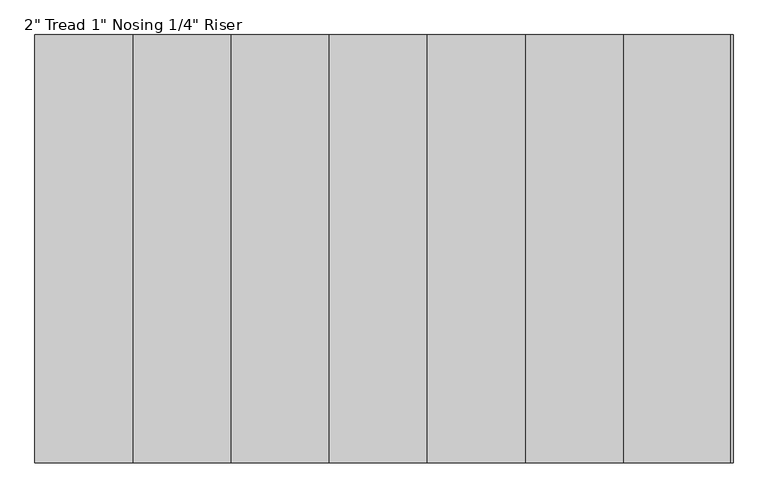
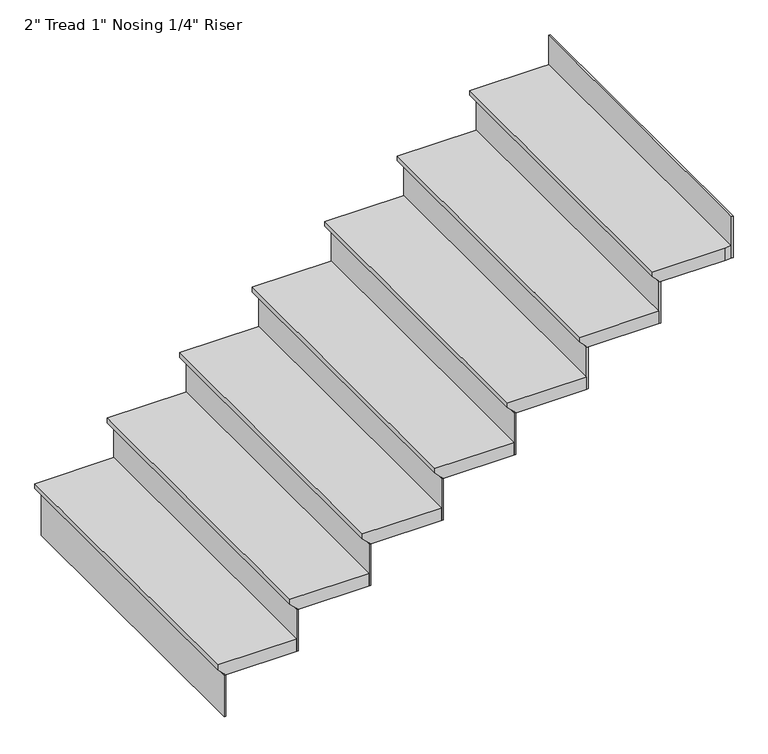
"""IFC4 building model written with IfcOpenShell, lengths in millimetres: stair flight geometry."""

from ifc_helpers import new_model, si_unit, origin, place, context, project, spatial, faceted_brep, source, transform, mapped, element, save


def stair_flight_7657f764(model_context):
    return source(origin(), model_context, "Body", "Brep", [
        faceted_brep([(-4066.817382, 5269.7483604, 996.95), (-4066.817382, 5269.7483604, 1016.0), (-4066.817382, 6488.9483604, 1016.0), (-4066.817382, 6488.9483604, 996.95), (-4041.417382, 5269.7483604, 971.55), (-4041.417382, 6488.9483604, 971.55), (-3762.017382, 5269.7483604, 1016.0), (-3762.017382, 6488.9483604, 1016.0), (-4041.417382, 6488.9483604, 965.2), (-3762.017382, 6488.9483604, 965.2), (-3762.017382, 5269.7483604, 965.2), (-4041.417382, 5269.7483604, 965.2)], [[[0, 1, 2, 3]], [[4, 0, 3, 5]], [[2, 1, 6, 7]], [[8, 9, 10, 11]], [[2, 7, 9, 8, 5, 3]], [[8, 11, 4, 5]], [[6, 1, 0, 4, 11, 10]], [[7, 6, 10, 9]]]),
        faceted_brep([(-4041.417382, 5269.7483604, 965.2), (-4041.417382, 5269.7483604, 795.8666667), (-4035.067382, 5269.7483604, 795.8666667), (-4035.067382, 5269.7483604, 965.2), (-4041.417382, 6488.9483604, 965.2), (-4035.067382, 6488.9483604, 965.2), (-4035.067382, 6488.9483604, 795.8666667), (-4041.417382, 6488.9483604, 795.8666667)], [[[0, 1, 2, 3]], [[4, 5, 6, 7]], [[1, 0, 4, 7]], [[2, 1, 7, 6]], [[3, 2, 6, 5]], [[0, 3, 5, 4]]]),
        faceted_brep([(-3762.017382, 5269.7483604, 1134.5333333), (-3762.017382, 5269.7483604, 965.2), (-3755.667382, 5269.7483604, 965.2), (-3755.667382, 5269.7483604, 1134.5333333), (-3762.017382, 6488.9483604, 1134.5333333), (-3755.667382, 6488.9483604, 1134.5333333), (-3755.667382, 6488.9483604, 965.2), (-3762.017382, 6488.9483604, 965.2)], [[[0, 1, 2, 3]], [[4, 5, 6, 7]], [[1, 0, 4, 7]], [[2, 1, 7, 6]], [[3, 2, 6, 5]], [[0, 3, 5, 4]]]),
        faceted_brep([(-3787.417382, 6488.9483604, 1185.3333333), (-3787.417382, 5269.7483604, 1185.3333333), (-3482.617382, 5269.7483604, 1185.3333333), (-3482.617382, 6488.9483604, 1185.3333333), (-3762.017382, 6488.9483604, 1134.5333333), (-3482.617382, 6488.9483604, 1134.5333333), (-3482.617382, 5269.7483604, 1134.5333333), (-3762.017382, 5269.7483604, 1134.5333333), (-3762.017382, 6488.9483604, 1140.8833333), (-3787.417382, 6488.9483604, 1166.2833333), (-3762.017382, 5269.7483604, 1140.8833333), (-3787.417382, 5269.7483604, 1166.2833333)], [[[0, 1, 2, 3]], [[4, 5, 6, 7]], [[0, 3, 5, 4, 8, 9]], [[4, 7, 10, 8]], [[2, 1, 11, 10, 7, 6]], [[3, 2, 6, 5]], [[11, 1, 0, 9]], [[10, 11, 9, 8]]]),
        faceted_brep([(-3482.617382, 5269.7483604, 1303.8666667), (-3482.617382, 5269.7483604, 1134.5333333), (-3476.267382, 5269.7483604, 1134.5333333), (-3476.267382, 5269.7483604, 1303.8666667), (-3482.617382, 6488.9483604, 1303.8666667), (-3476.267382, 6488.9483604, 1303.8666667), (-3476.267382, 6488.9483604, 1134.5333333), (-3482.617382, 6488.9483604, 1134.5333333)], [[[0, 1, 2, 3]], [[4, 5, 6, 7]], [[1, 0, 4, 7]], [[2, 1, 7, 6]], [[3, 2, 6, 5]], [[0, 3, 5, 4]]]),
        faceted_brep([(-3508.017382, 6488.9483604, 1354.6666667), (-3508.017382, 5269.7483604, 1354.6666667), (-3203.217382, 5269.7483604, 1354.6666667), (-3203.217382, 6488.9483604, 1354.6666667), (-3482.617382, 6488.9483604, 1303.8666667), (-3203.217382, 6488.9483604, 1303.8666667), (-3203.217382, 5269.7483604, 1303.8666667), (-3482.617382, 5269.7483604, 1303.8666667), (-3482.617382, 6488.9483604, 1310.2166667), (-3508.017382, 6488.9483604, 1335.6166667), (-3482.617382, 5269.7483604, 1310.2166667), (-3508.017382, 5269.7483604, 1335.6166667)], [[[0, 1, 2, 3]], [[4, 5, 6, 7]], [[0, 3, 5, 4, 8, 9]], [[4, 7, 10, 8]], [[2, 1, 11, 10, 7, 6]], [[3, 2, 6, 5]], [[11, 1, 0, 9]], [[10, 11, 9, 8]]]),
        faceted_brep([(-3203.217382, 5269.7483604, 1473.2), (-3203.217382, 5269.7483604, 1303.8666667), (-3196.867382, 5269.7483604, 1303.8666667), (-3196.867382, 5269.7483604, 1473.2), (-3203.217382, 6488.9483604, 1473.2), (-3196.867382, 6488.9483604, 1473.2), (-3196.867382, 6488.9483604, 1303.8666667), (-3203.217382, 6488.9483604, 1303.8666667)], [[[0, 1, 2, 3]], [[4, 5, 6, 7]], [[1, 0, 4, 7]], [[2, 1, 7, 6]], [[3, 2, 6, 5]], [[0, 3, 5, 4]]]),
        faceted_brep([(-3228.617382, 6488.9483604, 1524.0), (-3228.617382, 5269.7483604, 1524.0), (-2923.817382, 5269.7483604, 1524.0), (-2923.817382, 6488.9483604, 1524.0), (-3203.217382, 6488.9483604, 1473.2), (-2923.817382, 6488.9483604, 1473.2), (-2923.817382, 5269.7483604, 1473.2), (-3203.217382, 5269.7483604, 1473.2), (-3203.217382, 6488.9483604, 1479.55), (-3228.617382, 6488.9483604, 1504.95), (-3203.217382, 5269.7483604, 1479.55), (-3228.617382, 5269.7483604, 1504.95)], [[[0, 1, 2, 3]], [[4, 5, 6, 7]], [[0, 3, 5, 4, 8, 9]], [[4, 7, 10, 8]], [[2, 1, 11, 10, 7, 6]], [[3, 2, 6, 5]], [[11, 1, 0, 9]], [[10, 11, 9, 8]]]),
        faceted_brep([(-2923.817382, 5269.7483604, 1642.5333333), (-2923.817382, 5269.7483604, 1473.2), (-2917.467382, 5269.7483604, 1473.2), (-2917.467382, 5269.7483604, 1642.5333333), (-2923.817382, 6488.9483604, 1642.5333333), (-2917.467382, 6488.9483604, 1642.5333333), (-2917.467382, 6488.9483604, 1473.2), (-2923.817382, 6488.9483604, 1473.2)], [[[0, 1, 2, 3]], [[4, 5, 6, 7]], [[1, 0, 4, 7]], [[2, 1, 7, 6]], [[3, 2, 6, 5]], [[0, 3, 5, 4]]]),
        faceted_brep([(-2949.217382, 6488.9483604, 1693.3333333), (-2949.217382, 5269.7483604, 1693.3333333), (-2644.417382, 5269.7483604, 1693.3333333), (-2644.417382, 6488.9483604, 1693.3333333), (-2923.817382, 6488.9483604, 1642.5333333), (-2644.417382, 6488.9483604, 1642.5333333), (-2644.417382, 5269.7483604, 1642.5333333), (-2923.817382, 5269.7483604, 1642.5333333), (-2923.817382, 6488.9483604, 1648.8833333), (-2949.217382, 6488.9483604, 1674.2833333), (-2923.817382, 5269.7483604, 1648.8833333), (-2949.217382, 5269.7483604, 1674.2833333)], [[[0, 1, 2, 3]], [[4, 5, 6, 7]], [[0, 3, 5, 4, 8, 9]], [[4, 7, 10, 8]], [[2, 1, 11, 10, 7, 6]], [[3, 2, 6, 5]], [[11, 1, 0, 9]], [[10, 11, 9, 8]]]),
        faceted_brep([(-2644.417382, 5269.7483604, 1811.8666667), (-2644.417382, 5269.7483604, 1642.5333333), (-2638.067382, 5269.7483604, 1642.5333333), (-2638.067382, 5269.7483604, 1811.8666667), (-2644.417382, 6488.9483604, 1811.8666667), (-2638.067382, 6488.9483604, 1811.8666667), (-2638.067382, 6488.9483604, 1642.5333333), (-2644.417382, 6488.9483604, 1642.5333333)], [[[0, 1, 2, 3]], [[4, 5, 6, 7]], [[1, 0, 4, 7]], [[2, 1, 7, 6]], [[3, 2, 6, 5]], [[0, 3, 5, 4]]]),
        faceted_brep([(-2669.817382, 6488.9483604, 1862.6666667), (-2669.817382, 5269.7483604, 1862.6666667), (-2365.017382, 5269.7483604, 1862.6666667), (-2365.017382, 6488.9483604, 1862.6666667), (-2644.417382, 6488.9483604, 1811.8666667), (-2365.017382, 6488.9483604, 1811.8666667), (-2365.017382, 5269.7483604, 1811.8666667), (-2644.417382, 5269.7483604, 1811.8666667), (-2644.417382, 6488.9483604, 1818.2166667), (-2669.817382, 6488.9483604, 1843.6166667), (-2644.417382, 5269.7483604, 1818.2166667), (-2669.817382, 5269.7483604, 1843.6166667)], [[[0, 1, 2, 3]], [[4, 5, 6, 7]], [[0, 3, 5, 4, 8, 9]], [[4, 7, 10, 8]], [[2, 1, 11, 10, 7, 6]], [[3, 2, 6, 5]], [[11, 1, 0, 9]], [[10, 11, 9, 8]]]),
        faceted_brep([(-2085.617382, 5269.7483604, 2150.5333333), (-2085.617382, 5269.7483604, 1981.2), (-2079.267382, 5269.7483604, 1981.2), (-2079.267382, 5269.7483604, 2150.5333333), (-2085.617382, 6488.9483604, 2150.5333333), (-2079.267382, 6488.9483604, 2150.5333333), (-2079.267382, 6488.9483604, 1981.2), (-2085.617382, 6488.9483604, 1981.2)], [[[0, 1, 2, 3]], [[4, 5, 6, 7]], [[1, 0, 4, 7]], [[2, 1, 7, 6]], [[3, 2, 6, 5]], [[0, 3, 5, 4]]]),
        faceted_brep([(-2365.017382, 5269.7483604, 1981.2), (-2365.017382, 5269.7483604, 1811.8666667), (-2358.667382, 5269.7483604, 1811.8666667), (-2358.667382, 5269.7483604, 1981.2), (-2365.017382, 6488.9483604, 1981.2), (-2358.667382, 6488.9483604, 1981.2), (-2358.667382, 6488.9483604, 1811.8666667), (-2365.017382, 6488.9483604, 1811.8666667)], [[[0, 1, 2, 3]], [[4, 5, 6, 7]], [[1, 0, 4, 7]], [[2, 1, 7, 6]], [[3, 2, 6, 5]], [[0, 3, 5, 4]]]),
        faceted_brep([(-2085.617382, 6488.9483604, 2032.0), (-2111.017382, 6488.9483604, 2032.0), (-2390.417382, 6488.9483604, 2032.0), (-2390.417382, 5269.7483604, 2032.0), (-2111.017382, 5269.7483604, 2032.0), (-2085.617382, 5269.7483604, 2032.0), (-2111.017382, 6488.9483604, 1981.2), (-2085.617382, 6488.9483604, 1981.2), (-2085.617382, 5269.7483604, 1981.2), (-2111.017382, 5269.7483604, 1981.2), (-2365.017382, 5269.7483604, 1981.2), (-2365.017382, 6488.9483604, 1981.2), (-2365.017382, 6488.9483604, 1987.55), (-2390.417382, 6488.9483604, 2012.95), (-2365.017382, 5269.7483604, 1987.55), (-2390.417382, 5269.7483604, 2012.95)], [[[0, 1, 2, 3, 4, 5]], [[6, 7, 8, 9, 10, 11]], [[1, 0, 7, 6]], [[2, 1, 6, 11, 12, 13]], [[11, 10, 14, 12]], [[4, 3, 15, 14, 10, 9]], [[5, 4, 9, 8]], [[0, 5, 8, 7]], [[15, 3, 2, 13]], [[14, 15, 13, 12]]]),
    ])


if __name__ == "__main__":
    model = new_model("IFC4")
    model_context = context("Model", 3, world=origin())
    ifc_project = project(units=[si_unit("LENGTHUNIT", "METRE", prefix="MILLI")], contexts=[model_context])
    site = spatial("IfcSite", under=ifc_project)
    building = spatial("IfcBuilding", under=site)
    placement = place(None, origin())
    stair_flight_shape = stair_flight_7657f764(model_context)
    element("IfcStairFlight", 1, ObjectType="2\" Tread 1\" Nosing 1/4\" Riser", at=placement, inside=building, context=model_context, shape_type="MappedRepresentation", body=[
        mapped(stair_flight_shape, transform((0.0, 0.0, 0.0), x_axis=(1.0, 0.0, 0.0), y_axis=(0.0, 1.0, 0.0), z_axis=(0.0, 0.0, 1.0))),
    ])
    save(model, "model.ifc")
